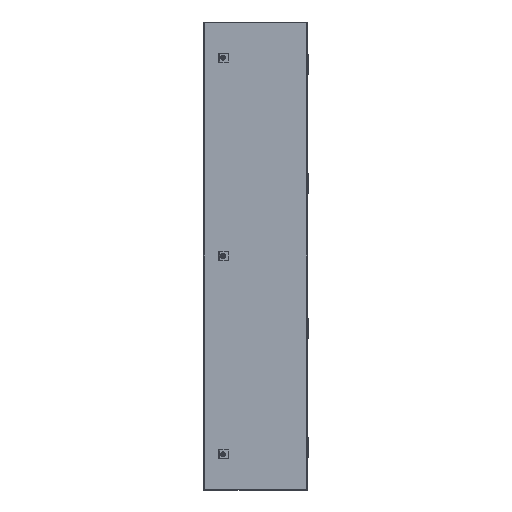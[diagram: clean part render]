
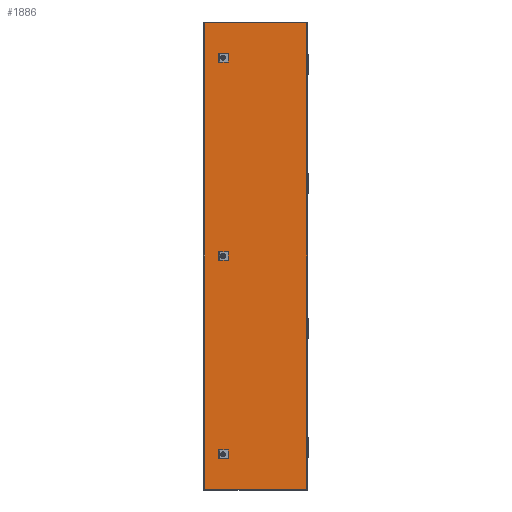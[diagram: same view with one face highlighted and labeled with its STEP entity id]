
A CAD part, left-side view. The second image highlights one B-rep face of the part: STEP entity #1886.
In plain terms, the highlighted planar face has unit normal (-1, 0, 0).
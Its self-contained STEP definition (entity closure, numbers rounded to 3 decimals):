
#1886=ADVANCED_FACE('',(#4623,#4625,#4627,#4629),#4631,.F.);
#4623=FACE_BOUND('',#4624,.T.);
#4624=EDGE_LOOP('',(#10432,#10433,#10434,#10435));
#4625=FACE_BOUND('',#4626,.T.);
#4626=EDGE_LOOP('',(#10436,#10437,#10438,#10439));
#4627=FACE_BOUND('',#4628,.T.);
#4628=EDGE_LOOP('',(#10440,#10441,#10442,#10443));
#4629=FACE_BOUND('',#4630,.T.);
#4630=EDGE_LOOP('',(#10444,#10445,#10446,#10447));
#4631=PLANE('',#4632);
#4632=AXIS2_PLACEMENT_3D('',#4633,#4634,#4635);
#4633=CARTESIAN_POINT('',(0.,0.,0.));
#4634=DIRECTION('',(1.,0.,0.));
#4635=DIRECTION('',(0.,1.,0.));
#10432=ORIENTED_EDGE('',*,*,#13034,.T.);
#10433=ORIENTED_EDGE('',*,*,#13103,.T.);
#10434=ORIENTED_EDGE('',*,*,#13038,.T.);
#10435=ORIENTED_EDGE('',*,*,#13036,.T.);
#10436=ORIENTED_EDGE('',*,*,#13104,.T.);
#10437=ORIENTED_EDGE('',*,*,#13105,.T.);
#10438=ORIENTED_EDGE('',*,*,#13106,.T.);
#10439=ORIENTED_EDGE('',*,*,#13107,.T.);
#10440=ORIENTED_EDGE('',*,*,#13108,.T.);
#10441=ORIENTED_EDGE('',*,*,#13109,.T.);
#10442=ORIENTED_EDGE('',*,*,#13110,.T.);
#10443=ORIENTED_EDGE('',*,*,#13111,.T.);
#10444=ORIENTED_EDGE('',*,*,#13112,.T.);
#10445=ORIENTED_EDGE('',*,*,#13113,.T.);
#10446=ORIENTED_EDGE('',*,*,#13114,.T.);
#10447=ORIENTED_EDGE('',*,*,#13115,.T.);
#13034=EDGE_CURVE('',#14665,#14663,#14666,.T.);
#13036=EDGE_CURVE('',#14668,#14665,#14669,.T.);
#13038=EDGE_CURVE('',#14671,#14668,#14672,.T.);
#13103=EDGE_CURVE('',#14663,#14671,#14775,.T.);
#13104=EDGE_CURVE('',#14776,#14777,#14778,.T.);
#13105=EDGE_CURVE('',#14777,#14779,#14780,.T.);
#13106=EDGE_CURVE('',#14779,#14781,#14782,.T.);
#13107=EDGE_CURVE('',#14781,#14776,#14783,.T.);
#13108=EDGE_CURVE('',#14784,#14785,#14786,.T.);
#13109=EDGE_CURVE('',#14785,#14787,#14788,.T.);
#13110=EDGE_CURVE('',#14787,#14789,#14790,.T.);
#13111=EDGE_CURVE('',#14789,#14784,#14791,.T.);
#13112=EDGE_CURVE('',#14792,#14793,#14794,.T.);
#13113=EDGE_CURVE('',#14793,#14795,#14796,.T.);
#13114=EDGE_CURVE('',#14795,#14797,#14798,.T.);
#13115=EDGE_CURVE('',#14797,#14792,#14799,.T.);
#14663=VERTEX_POINT('',#17729);
#14665=VERTEX_POINT('',#17734);
#14666=LINE('',#17735,#17736);
#14668=VERTEX_POINT('',#17742);
#14669=LINE('',#17743,#17744);
#14671=VERTEX_POINT('',#17750);
#14672=LINE('',#17751,#17752);
#14775=LINE('',#17998,#17999);
#14776=VERTEX_POINT('',#18001);
#14777=VERTEX_POINT('',#18002);
#14778=LINE('',#18003,#18004);
#14779=VERTEX_POINT('',#18006);
#14780=LINE('',#18007,#18008);
#14781=VERTEX_POINT('',#18010);
#14782=LINE('',#18011,#18012);
#14783=LINE('',#18014,#18015);
#14784=VERTEX_POINT('',#18017);
#14785=VERTEX_POINT('',#18018);
#14786=LINE('',#18019,#18020);
#14787=VERTEX_POINT('',#18022);
#14788=LINE('',#18023,#18024);
#14789=VERTEX_POINT('',#18026);
#14790=LINE('',#18027,#18028);
#14791=LINE('',#18030,#18031);
#14792=VERTEX_POINT('',#18033);
#14793=VERTEX_POINT('',#18034);
#14794=LINE('',#18035,#18036);
#14795=VERTEX_POINT('',#18038);
#14796=LINE('',#18039,#18040);
#14797=VERTEX_POINT('',#18042);
#14798=LINE('',#18043,#18044);
#14799=LINE('',#18046,#18047);
#17729=CARTESIAN_POINT('',(0.,193.2,-882.7));
#17734=CARTESIAN_POINT('',(0.,193.2,882.7));
#17735=CARTESIAN_POINT('',(0.,193.2,882.7));
#17736=VECTOR('',#17737,1.);
#17737=DIRECTION('',(0.,0.,-1.));
#17742=CARTESIAN_POINT('',(0.,-193.2,882.7));
#17743=CARTESIAN_POINT('',(0.,-193.2,882.7));
#17744=VECTOR('',#17745,1.);
#17745=DIRECTION('',(0.,1.,0.));
#17750=CARTESIAN_POINT('',(0.,-193.2,-882.7));
#17751=CARTESIAN_POINT('',(0.,-193.2,-882.7));
#17752=VECTOR('',#17753,1.);
#17753=DIRECTION('',(0.,0.,1.));
#17998=CARTESIAN_POINT('',(0.,193.2,-882.7));
#17999=VECTOR('',#18000,1.);
#18000=DIRECTION('',(0.,-1.,0.));
#18001=CARTESIAN_POINT('',(0.,112.75,-760.75));
#18002=CARTESIAN_POINT('',(0.,134.25,-760.75));
#18003=CARTESIAN_POINT('',(0.,112.75,-760.75));
#18004=VECTOR('',#18005,1.);
#18005=DIRECTION('',(0.,1.,0.));
#18006=CARTESIAN_POINT('',(0.,134.25,-739.25));
#18007=CARTESIAN_POINT('',(0.,134.25,-760.75));
#18008=VECTOR('',#18009,1.);
#18009=DIRECTION('',(0.,0.,1.));
#18010=CARTESIAN_POINT('',(0.,112.75,-739.25));
#18011=CARTESIAN_POINT('',(0.,134.25,-739.25));
#18012=VECTOR('',#18013,1.);
#18013=DIRECTION('',(0.,-1.,0.));
#18014=CARTESIAN_POINT('',(0.,112.75,-739.25));
#18015=VECTOR('',#18016,1.);
#18016=DIRECTION('',(0.,0.,-1.));
#18017=CARTESIAN_POINT('',(0.,112.75,739.25));
#18018=CARTESIAN_POINT('',(0.,134.25,739.25));
#18019=CARTESIAN_POINT('',(0.,112.75,739.25));
#18020=VECTOR('',#18021,1.);
#18021=DIRECTION('',(0.,1.,0.));
#18022=CARTESIAN_POINT('',(0.,134.25,760.75));
#18023=CARTESIAN_POINT('',(0.,134.25,739.25));
#18024=VECTOR('',#18025,1.);
#18025=DIRECTION('',(0.,0.,1.));
#18026=CARTESIAN_POINT('',(0.,112.75,760.75));
#18027=CARTESIAN_POINT('',(0.,134.25,760.75));
#18028=VECTOR('',#18029,1.);
#18029=DIRECTION('',(0.,-1.,0.));
#18030=CARTESIAN_POINT('',(0.,112.75,760.75));
#18031=VECTOR('',#18032,1.);
#18032=DIRECTION('',(0.,0.,-1.));
#18033=CARTESIAN_POINT('',(0.,112.75,-10.75));
#18034=CARTESIAN_POINT('',(0.,134.25,-10.75));
#18035=CARTESIAN_POINT('',(0.,112.75,-10.75));
#18036=VECTOR('',#18037,1.);
#18037=DIRECTION('',(0.,1.,0.));
#18038=CARTESIAN_POINT('',(0.,134.25,10.75));
#18039=CARTESIAN_POINT('',(0.,134.25,-10.75));
#18040=VECTOR('',#18041,1.);
#18041=DIRECTION('',(0.,0.,1.));
#18042=CARTESIAN_POINT('',(0.,112.75,10.75));
#18043=CARTESIAN_POINT('',(0.,134.25,10.75));
#18044=VECTOR('',#18045,1.);
#18045=DIRECTION('',(0.,-1.,0.));
#18046=CARTESIAN_POINT('',(0.,112.75,10.75));
#18047=VECTOR('',#18048,1.);
#18048=DIRECTION('',(0.,0.,-1.));
